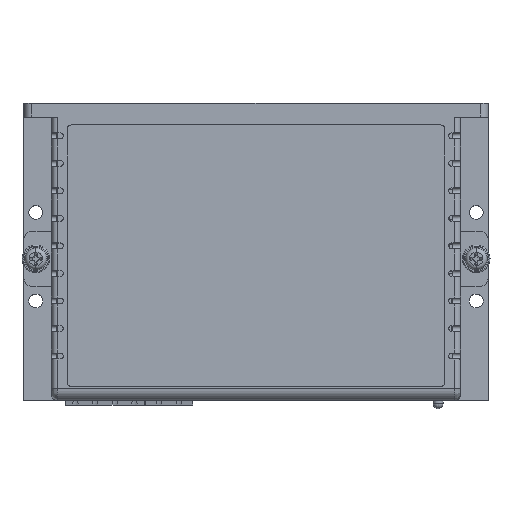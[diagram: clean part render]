
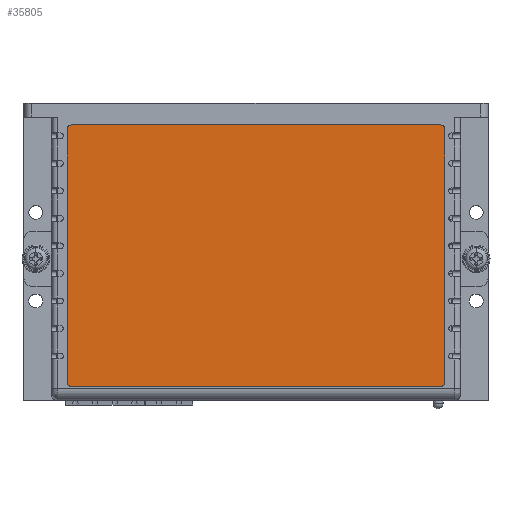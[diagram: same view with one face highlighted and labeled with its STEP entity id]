
A CAD part, top view. The second image highlights one B-rep face of the part: STEP entity #35805.
In plain terms, the highlighted planar face has unit normal (0, 0, 1).
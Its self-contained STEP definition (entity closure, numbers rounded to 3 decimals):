
#35713=CARTESIAN_POINT('',(-47.,3.5,21.8));
#35714=VERTEX_POINT('',#35713);
#35722=CARTESIAN_POINT('',(47.,3.5,21.8));
#35723=VERTEX_POINT('',#35722);
#35730=CARTESIAN_POINT('',(47.,3.5,21.8));
#35731=DIRECTION('',(-1.,0.,0.));
#35732=VECTOR('',#35731,94.);
#35733=LINE('',#35730,#35732);
#35734=EDGE_CURVE('',#35723,#35714,#35733,.T.);
#35739=CARTESIAN_POINT('',(0.,36.75,21.8));
#35740=DIRECTION('',(1.,0.,0.));
#35741=DIRECTION('',(0.,0.,1.));
#35742=AXIS2_PLACEMENT_3D('',#35739,#35741,#35740);
#35743=PLANE('',#35742);
#35744=CARTESIAN_POINT('',(-48.,69.,21.8));
#35745=VERTEX_POINT('',#35744);
#35746=CARTESIAN_POINT('',(-48.,4.5,21.8));
#35747=VERTEX_POINT('',#35746);
#35748=CARTESIAN_POINT('',(-48.,69.,21.8));
#35749=DIRECTION('',(0.,-1.,0.));
#35750=VECTOR('',#35749,64.5);
#35751=LINE('',#35748,#35750);
#35752=EDGE_CURVE('',#35745,#35747,#35751,.T.);
#35753=ORIENTED_EDGE('E3263',*,*,#35752,.T.);
#35754=CARTESIAN_POINT('',(-47.,4.5,21.8));
#35755=DIRECTION('',(-1.,0.,0.));
#35756=DIRECTION('',(0.,0.,1.));
#35757=AXIS2_PLACEMENT_3D('',#35754,#35756,#35755);
#35758=CIRCLE('',#35757,1.);
#35759=EDGE_CURVE('',#35747,#35714,#35758,.T.);
#35760=ORIENTED_EDGE('E3264',*,*,#35759,.T.);
#35761=ORIENTED_EDGE('E3264',*,*,#35734,.F.);
#35762=CARTESIAN_POINT('',(48.,4.5,21.8));
#35763=VERTEX_POINT('',#35762);
#35764=CARTESIAN_POINT('',(47.,4.5,21.8));
#35765=DIRECTION('',(0.,-1.,0.));
#35766=DIRECTION('',(0.,0.,1.));
#35767=AXIS2_PLACEMENT_3D('',#35764,#35766,#35765);
#35768=CIRCLE('',#35767,1.);
#35769=EDGE_CURVE('',#35723,#35763,#35768,.T.);
#35770=ORIENTED_EDGE('E3265',*,*,#35769,.T.);
#35771=CARTESIAN_POINT('',(48.,69.,21.8));
#35772=VERTEX_POINT('',#35771);
#35773=CARTESIAN_POINT('',(48.,4.5,21.8));
#35774=DIRECTION('',(0.,1.,0.));
#35775=VECTOR('',#35774,64.5);
#35776=LINE('',#35773,#35775);
#35777=EDGE_CURVE('',#35763,#35772,#35776,.T.);
#35778=ORIENTED_EDGE('E3266',*,*,#35777,.T.);
#35779=CARTESIAN_POINT('',(47.,70.,21.8));
#35780=VERTEX_POINT('',#35779);
#35781=CARTESIAN_POINT('',(47.,69.,21.8));
#35782=DIRECTION('',(1.,0.,0.));
#35783=DIRECTION('',(0.,0.,1.));
#35784=AXIS2_PLACEMENT_3D('',#35781,#35783,#35782);
#35785=CIRCLE('',#35784,1.);
#35786=EDGE_CURVE('',#35772,#35780,#35785,.T.);
#35787=ORIENTED_EDGE('E3267',*,*,#35786,.T.);
#35788=CARTESIAN_POINT('',(-47.,70.,21.8));
#35789=VERTEX_POINT('',#35788);
#35790=CARTESIAN_POINT('',(47.,70.,21.8));
#35791=DIRECTION('',(-1.,0.,0.));
#35792=VECTOR('',#35791,94.);
#35793=LINE('',#35790,#35792);
#35794=EDGE_CURVE('',#35780,#35789,#35793,.T.);
#35795=ORIENTED_EDGE('E3268',*,*,#35794,.T.);
#35796=CARTESIAN_POINT('',(-47.,69.,21.8));
#35797=DIRECTION('',(0.,1.,0.));
#35798=DIRECTION('',(0.,0.,1.));
#35799=AXIS2_PLACEMENT_3D('',#35796,#35798,#35797);
#35800=CIRCLE('',#35799,1.);
#35801=EDGE_CURVE('',#35789,#35745,#35800,.T.);
#35802=ORIENTED_EDGE('E3269',*,*,#35801,.T.);
#35803=EDGE_LOOP('',(#35753,#35760,#35761,#35770,#35778,#35787,#35795,#35802));
#35804=FACE_OUTER_BOUND('',#35803,.T.);
#35805=ADVANCED_FACE('F1036',(#35804),#35743,.T.);
